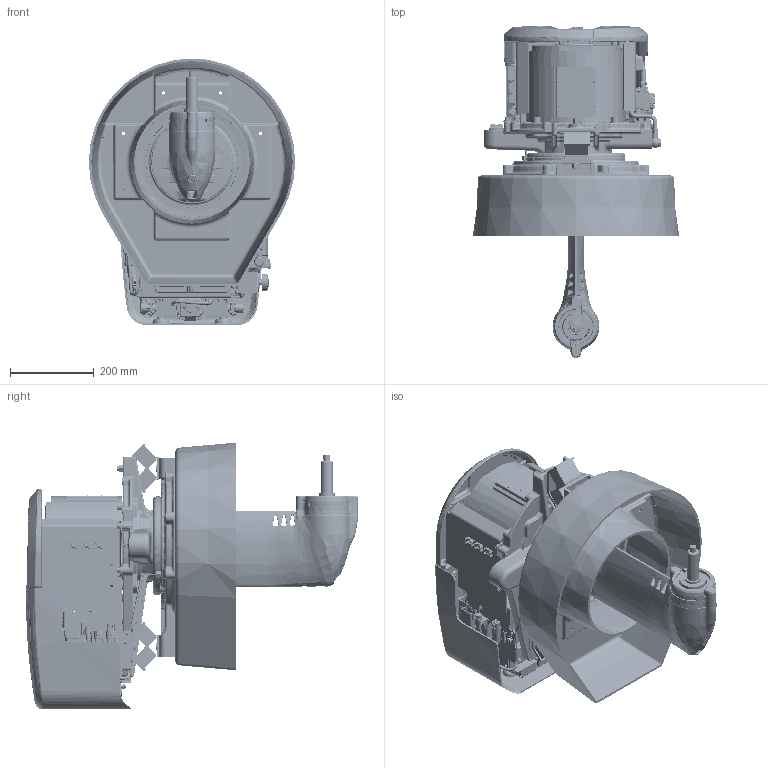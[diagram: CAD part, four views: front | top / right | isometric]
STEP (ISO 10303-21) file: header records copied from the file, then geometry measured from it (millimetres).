
FILE_DESCRIPTION((''),'2;1');
FILE_NAME('SDE_ASM','2024-11-04T17:38:49',('IB46307'),(''),'CREO PARAMETRIC BY PTC INC, 2022024','CREO PARAMETRIC BY PTC INC, 2022024','');
FILE_SCHEMA(('CONFIG_CONTROL_DESIGN'));
Length unit declared in the file: millimetre
Products named in the file (30): 596420E1_SW0010; 596420E1_SW0011; 596420E1_SW0011_ASM; 596420E1_SW0012; 596420E1_SW0012_ASM; 596420E1_SW0004; 596420E1_SW0003; DV5900-4520X_SW0001; DV5900-4200X_SW0001; DV5900-0900X_SW0001; DV5900-7615X_SW0001; DV5900-7700X_SW0002; DV5900-7310X_SW0001; DV5900-7720X_SW0001; 596420E1_SW0013; 596420E1_SW0013_ASM; SDE_BASE_ASM; DV5900-2220X_SW0001; DV5900-7520X_SW0001; DV5900-4920X_SW0001; DV5900-7620X_SW0001; 1V5900-7901X; 1V5900-7716X; DV5900-7900X_15_ASM; DV5900-0920X_SW0001; DV5900-0700X_SW0001F4; SDE_15_ASM; 596420-02900_SW0001; SDE_BED_ASM; SDE_ASM
Assembly tree (32 placements, depth 4):
  SDE_ASM
    SDE_BASE_ASM
      596420E1_SW0010
      596420E1_SW0011_ASM
        596420E1_SW0011
      596420E1_SW0012_ASM
        596420E1_SW0012
      596420E1_SW0004
      596420E1_SW0003
      DV5900-4520X_SW0001
      DV5900-4200X_SW0001
      DV5900-0900X_SW0001
      DV5900-7615X_SW0001
      DV5900-7700X_SW0002
      DV5900-7310X_SW0001
      DV5900-7720X_SW0001
      596420E1_SW0013_ASM
        596420E1_SW0013
    SDE_15_ASM
      DV5900-2220X_SW0001
      DV5900-7520X_SW0001
      DV5900-4920X_SW0001
      DV5900-7620X_SW0001
      DV5900-7900X_15_ASM
        1V5900-7901X
        1V5900-7716X  x4
      DV5900-0920X_SW0001
      DV5900-0700X_SW0001F4
    SDE_BED_ASM
      596420-02900_SW0001
Bounding box: 493.37 x 793.8 x 637.69 mm (x, y, z)
Surface area: 5244789.3 mm2
Topology: 26 solids, 869 shells, 17151 faces, 48884 edges, 32137 vertices
Faces by surface type: plane 5809, cylinder 4949, bspline 3026, torus 1560, cone 1083, sphere 438, extrusion 218, revolution 68
Entity records: 796640 total; most frequent: CARTESIAN_POINT 374851, ORIENTED_EDGE 86958, DIRECTION 82875, EDGE_CURVE 48304, VERTEX_POINT 32065, AXIS2_PLACEMENT_3D 30655, VECTOR 21497, LINE 21279
